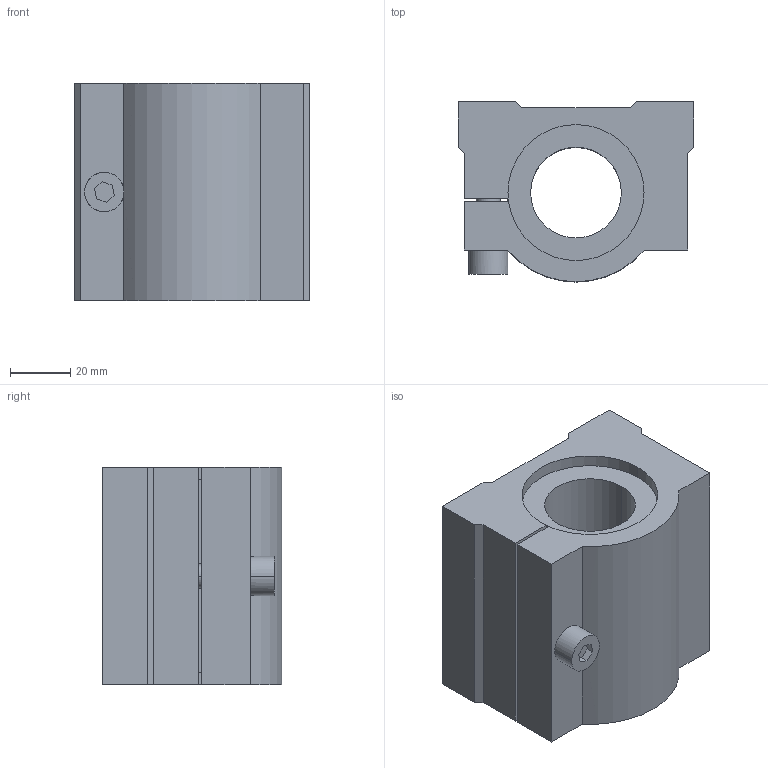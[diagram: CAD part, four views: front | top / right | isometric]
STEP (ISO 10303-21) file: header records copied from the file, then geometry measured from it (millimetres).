
FILE_DESCRIPTION((''),'2;1');
FILE_NAME('C:\Documents and Settings\ｿﾀﾀ蠑ｷ1\ｹﾙﾅﾁ ﾈｭｸ饅\ｺﾎﾇｰﾆﾄﾀﾏ\ﾁｦﾇｰ\SCJ__UU\SCJ30UU.stp','2005-06-22T17:48:56',('ｿﾀﾀ蠑ｷ1'),(''),'Autodesk Inventor 9','Autodesk Inventor 9','');
FILE_SCHEMA(('AUTOMOTIVE_DESIGN { 1 0 10303 214 1 1 1 1 }'));
Length unit declared in the file: millimetre
Products named in the file (1): SCJ__UU
Bounding box: 78 x 59.5 x 72 mm (x, y, z)
Volume: 224950.9 mm3; surface area: 35630.6 mm2
Topology: 1 solids, 1 shells, 56 faces, 145 edges, 90 vertices
Faces by surface type: plane 29, bspline 16, cylinder 11
Entity records: 1888 total; most frequent: CARTESIAN_POINT 562, ORIENTED_EDGE 274, DIRECTION 255, EDGE_CURVE 137, VECTOR 97, LINE 97, VERTEX_POINT 90, AXIS2_PLACEMENT_3D 79
